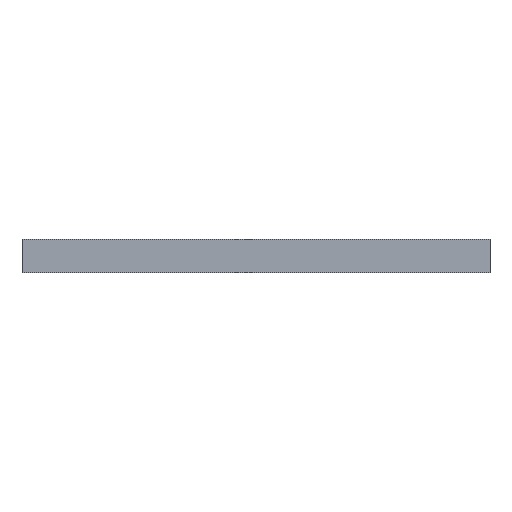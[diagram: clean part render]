
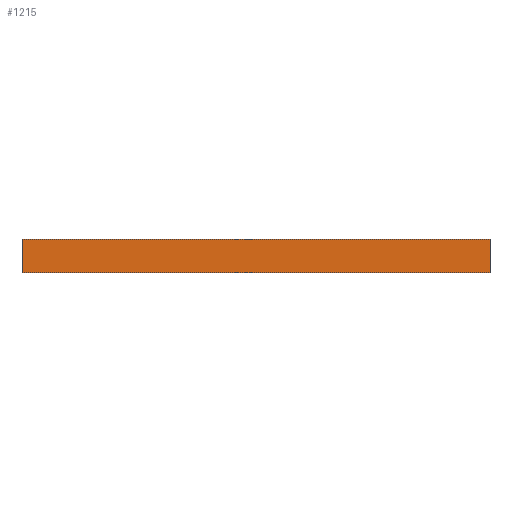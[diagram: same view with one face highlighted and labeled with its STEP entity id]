
A CAD part, front view. The second image highlights one B-rep face of the part: STEP entity #1215.
In plain terms, the highlighted planar face has unit normal (0, -1, 0).
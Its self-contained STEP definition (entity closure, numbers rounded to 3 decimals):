
#48 = FACE_OUTER_BOUND ( 'NONE', #631, .T. ) ;
#58 = ORIENTED_EDGE ( 'NONE', *, *, #211, .F. ) ;
#71 = ORIENTED_EDGE ( 'NONE', *, *, #501, .F. ) ;
#96 = EDGE_CURVE ( 'NONE', #409, #319, #1474, .T. ) ;
#211 = EDGE_CURVE ( 'NONE', #508, #361, #1518, .T. ) ;
#319 = VERTEX_POINT ( 'NONE', #1110 ) ;
#326 = CARTESIAN_POINT ( 'NONE',  ( 35., -70., 5. ) ) ;
#361 = VERTEX_POINT ( 'NONE', #843 ) ;
#409 = VERTEX_POINT ( 'NONE', #726 ) ;
#425 = DIRECTION ( 'NONE',  ( 0., 0., 1. ) ) ;
#501 = EDGE_CURVE ( 'NONE', #409, #508, #1534, .T. ) ;
#508 = VERTEX_POINT ( 'NONE', #1189 ) ;
#537 = LINE ( 'NONE', #770, #1177 ) ;
#542 = VECTOR ( 'NONE', #690, 1000. ) ;
#561 = CARTESIAN_POINT ( 'NONE',  ( -35., -70., 5. ) ) ;
#631 = EDGE_LOOP ( 'NONE', ( #1021, #58, #71, #641 ) ) ;
#641 = ORIENTED_EDGE ( 'NONE', *, *, #96, .T. ) ;
#690 = DIRECTION ( 'NONE',  ( 1., 0., 0. ) ) ;
#726 = CARTESIAN_POINT ( 'NONE',  ( -35., -70., 5. ) ) ;
#770 = CARTESIAN_POINT ( 'NONE',  ( -35., -70., 0. ) ) ;
#777 = CARTESIAN_POINT ( 'NONE',  ( -35., -70., 5. ) ) ;
#843 = CARTESIAN_POINT ( 'NONE',  ( 35., -70., 0. ) ) ;
#867 = EDGE_CURVE ( 'NONE', #319, #361, #537, .T. ) ;
#1021 = ORIENTED_EDGE ( 'NONE', *, *, #867, .T. ) ;
#1035 = CARTESIAN_POINT ( 'NONE',  ( -35., -70., 5. ) ) ;
#1053 = DIRECTION ( 'NONE',  ( 1., 0., 0. ) ) ;
#1110 = CARTESIAN_POINT ( 'NONE',  ( -35., -70., 0. ) ) ;
#1113 = DIRECTION ( 'NONE',  ( 0., 0., -1. ) ) ;
#1168 = PLANE ( 'NONE',  #1176 ) ;
#1174 = VECTOR ( 'NONE', #1113, 1000. ) ;
#1176 = AXIS2_PLACEMENT_3D ( 'NONE', #1035, #1535, #425 ) ;
#1177 = VECTOR ( 'NONE', #1053, 1000. ) ;
#1189 = CARTESIAN_POINT ( 'NONE',  ( 35., -70., 5. ) ) ;
#1198 = DIRECTION ( 'NONE',  ( 0., 0., -1. ) ) ;
#1215 = ADVANCED_FACE ( 'NONE', ( #48 ), #1168, .F. ) ;
#1474 = LINE ( 'NONE', #777, #1174 ) ;
#1491 = VECTOR ( 'NONE', #1198, 1000. ) ;
#1518 = LINE ( 'NONE', #326, #1491 ) ;
#1534 = LINE ( 'NONE', #561, #542 ) ;
#1535 = DIRECTION ( 'NONE',  ( 0., 1., 0. ) ) ;
